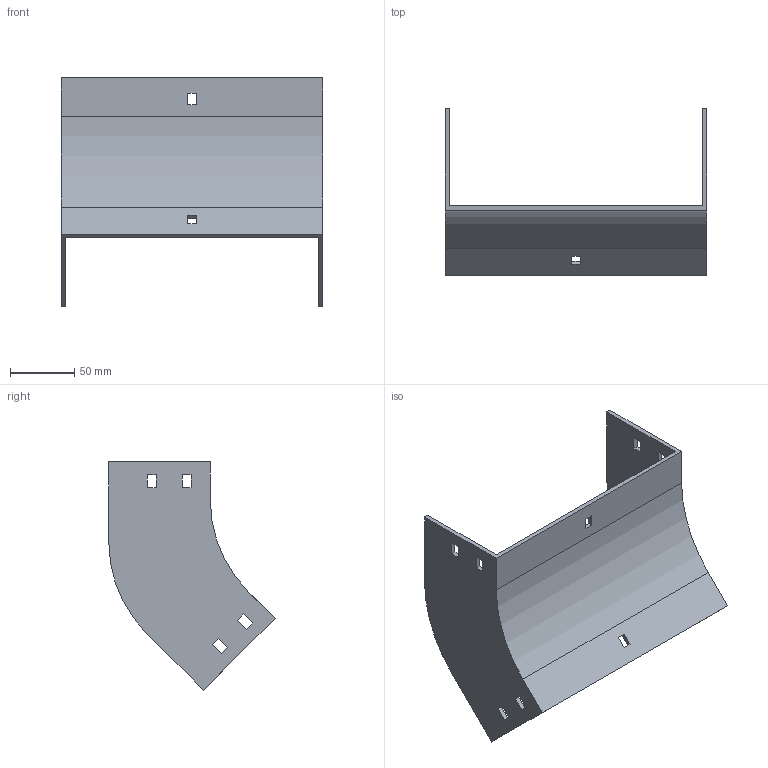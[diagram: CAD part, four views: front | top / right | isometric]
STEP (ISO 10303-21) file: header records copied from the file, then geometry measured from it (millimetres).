
FILE_DESCRIPTION (( 'STEP AP214' ), '1' );
FILE_NAME ('34F1C200.step', '2025-02-21T12:51:24', ( '' ), ( '' ), 'SwSTEP 2.0', 'SolidWorks 2023', '' );
FILE_SCHEMA (( 'AUTOMOTIVE_DESIGN' ));
Length unit declared in the file: millimetre
Products named in the file (1): 34F1C200
Bounding box: 204 x 129.5 x 177.79 mm (x, y, z)
Volume: 191189.2 mm3; surface area: 114323.2 mm2
Topology: 1 solids, 1 shells, 58 faces, 168 edges, 112 vertices
Faces by surface type: plane 54, cylinder 4
Entity records: 1943 total; most frequent: CARTESIAN_POINT 339, ORIENTED_EDGE 336, DIRECTION 294, EDGE_CURVE 168, VECTOR 160, LINE 160, VERTEX_POINT 112, EDGE_LOOP 78
